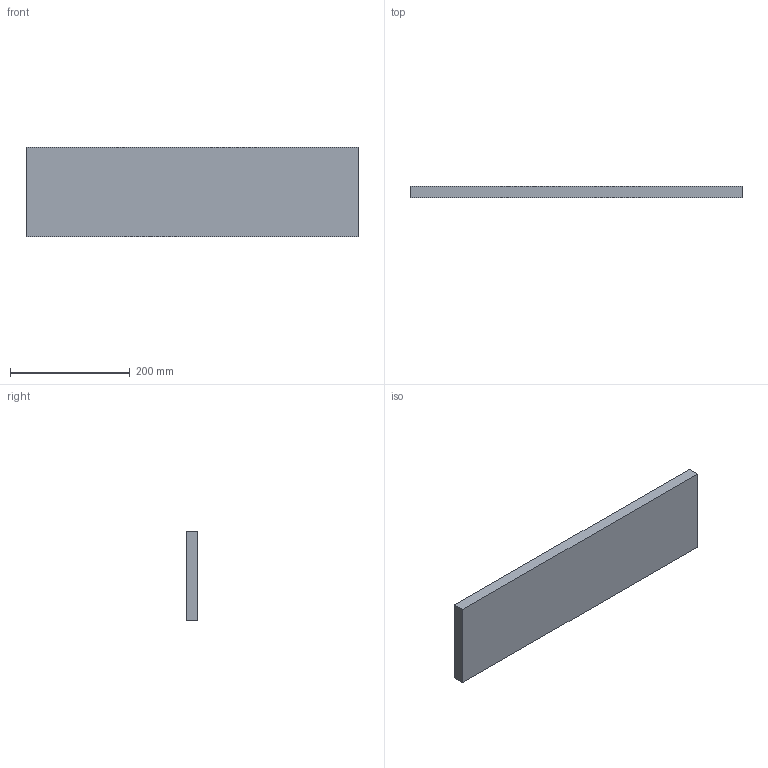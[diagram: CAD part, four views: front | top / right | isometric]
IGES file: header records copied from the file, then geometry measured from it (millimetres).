
Start section:  PTC IGES file: l5_23w_mid_frnt.igs
Global section: file name: l5_23w_mid_frnt.igs; native system: Creo Parametric by Parametric Technology Corporation; preprocessor: 2014310; author: apappas; organization: Unknown; date: 20150316.073122; units: inch
Bounding box: 553.85 x 19.05 x 149.22 mm (x, y, z)
Volume: 1573970.5 mm3; surface area: 192710.5 mm2
Topology: 1 solids, 1 shells, 24 faces, 48 edges, 32 vertices
Faces by surface type: bspline 24
